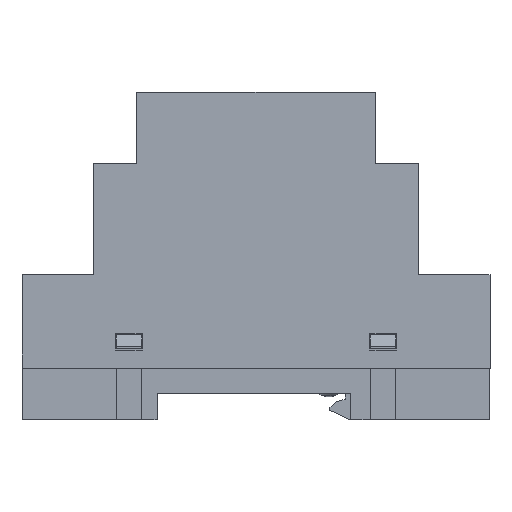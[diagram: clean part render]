
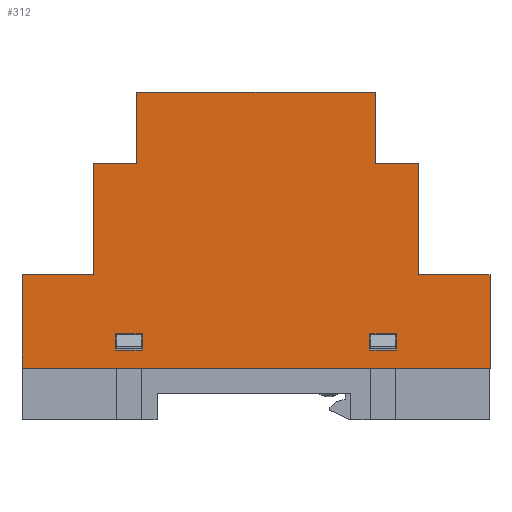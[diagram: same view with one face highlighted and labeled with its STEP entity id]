
A CAD part, front view. The second image highlights one B-rep face of the part: STEP entity #312.
In plain terms, the highlighted planar face has unit normal (0, -1, 0).
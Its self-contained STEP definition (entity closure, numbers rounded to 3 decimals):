
#312=ADVANCED_FACE('',(#1314,#1316,#1318),#1320,.F.);
#1314=FACE_BOUND('',#1315,.T.);
#1315=EDGE_LOOP('',(#4650,#4651,#4652,#4653,#4654,#4655,#4656,#4657,#4658,#4659,
#4660,#4661));
#1316=FACE_BOUND('',#1317,.T.);
#1317=EDGE_LOOP('',(#4662,#4663,#4664,#4665));
#1318=FACE_BOUND('',#1319,.T.);
#1319=EDGE_LOOP('',(#4666,#4667,#4668,#4669));
#1320=PLANE('',#1321);
#1321=AXIS2_PLACEMENT_3D('',#1322,#1323,#1324);
#1322=CARTESIAN_POINT('',(0.,-17.5,0.));
#1323=DIRECTION('',(0.,1.,0.));
#1324=DIRECTION('',(-1.,0.,0.));
#4650=ORIENTED_EDGE('',*,*,#7037,.T.);
#4651=ORIENTED_EDGE('',*,*,#7160,.F.);
#4652=ORIENTED_EDGE('',*,*,#7161,.F.);
#4653=ORIENTED_EDGE('',*,*,#7162,.F.);
#4654=ORIENTED_EDGE('',*,*,#7163,.F.);
#4655=ORIENTED_EDGE('',*,*,#7140,.F.);
#4656=ORIENTED_EDGE('',*,*,#7013,.T.);
#4657=ORIENTED_EDGE('',*,*,#7159,.F.);
#4658=ORIENTED_EDGE('',*,*,#7164,.F.);
#4659=ORIENTED_EDGE('',*,*,#7165,.F.);
#4660=ORIENTED_EDGE('',*,*,#7166,.F.);
#4661=ORIENTED_EDGE('',*,*,#7167,.F.);
#4662=ORIENTED_EDGE('',*,*,#7168,.T.);
#4663=ORIENTED_EDGE('',*,*,#7169,.T.);
#4664=ORIENTED_EDGE('',*,*,#7170,.T.);
#4665=ORIENTED_EDGE('',*,*,#7171,.T.);
#4666=ORIENTED_EDGE('',*,*,#7172,.T.);
#4667=ORIENTED_EDGE('',*,*,#7173,.T.);
#4668=ORIENTED_EDGE('',*,*,#7174,.T.);
#4669=ORIENTED_EDGE('',*,*,#7175,.T.);
#7013=EDGE_CURVE('',#8476,#8481,#8483,.F.);
#7037=EDGE_CURVE('',#8524,#8522,#8525,.F.);
#7140=EDGE_CURVE('',#8476,#8680,#8684,.T.);
#7159=EDGE_CURVE('',#8717,#8481,#8719,.T.);
#7160=EDGE_CURVE('',#8720,#8522,#8721,.T.);
#7161=EDGE_CURVE('',#8722,#8720,#8723,.T.);
#7162=EDGE_CURVE('',#8724,#8722,#8725,.T.);
#7163=EDGE_CURVE('',#8680,#8724,#8726,.T.);
#7164=EDGE_CURVE('',#8727,#8717,#8728,.T.);
#7165=EDGE_CURVE('',#8729,#8727,#8730,.T.);
#7166=EDGE_CURVE('',#8731,#8729,#8732,.T.);
#7167=EDGE_CURVE('',#8524,#8731,#8733,.T.);
#7168=EDGE_CURVE('',#8734,#8735,#8736,.T.);
#7169=EDGE_CURVE('',#8735,#8737,#8738,.T.);
#7170=EDGE_CURVE('',#8737,#8739,#8740,.T.);
#7171=EDGE_CURVE('',#8739,#8734,#8741,.T.);
#7172=EDGE_CURVE('',#8742,#8743,#8744,.T.);
#7173=EDGE_CURVE('',#8743,#8745,#8746,.T.);
#7174=EDGE_CURVE('',#8745,#8747,#8748,.T.);
#7175=EDGE_CURVE('',#8747,#8742,#8749,.T.);
#8476=VERTEX_POINT('',#11010);
#8481=VERTEX_POINT('',#11019);
#8483=LINE('',#11023,#11024);
#8522=VERTEX_POINT('',#11114);
#8524=VERTEX_POINT('',#11118);
#8525=LINE('',#11119,#11120);
#8680=VERTEX_POINT('',#11482);
#8684=LINE('',#11490,#11491);
#8717=VERTEX_POINT('',#11559);
#8719=LINE('',#11563,#11564);
#8720=VERTEX_POINT('',#11566);
#8721=LINE('',#11567,#11568);
#8722=VERTEX_POINT('',#11570);
#8723=LINE('',#11571,#11572);
#8724=VERTEX_POINT('',#11574);
#8725=LINE('',#11575,#11576);
#8726=LINE('',#11578,#11579);
#8727=VERTEX_POINT('',#11581);
#8728=LINE('',#11582,#11583);
#8729=VERTEX_POINT('',#11585);
#8730=LINE('',#11586,#11587);
#8731=VERTEX_POINT('',#11589);
#8732=LINE('',#11590,#11591);
#8733=LINE('',#11593,#11594);
#8734=VERTEX_POINT('',#11596);
#8735=VERTEX_POINT('',#11597);
#8736=LINE('',#11598,#11599);
#8737=VERTEX_POINT('',#11601);
#8738=LINE('',#11602,#11603);
#8739=VERTEX_POINT('',#11605);
#8740=LINE('',#11606,#11607);
#8741=LINE('',#11609,#11610);
#8742=VERTEX_POINT('',#11612);
#8743=VERTEX_POINT('',#11613);
#8744=LINE('',#11614,#11615);
#8745=VERTEX_POINT('',#11617);
#8746=LINE('',#11618,#11619);
#8747=VERTEX_POINT('',#11621);
#8748=LINE('',#11622,#11623);
#8749=LINE('',#11625,#11626);
#11010=CARTESIAN_POINT('',(22.5,-17.5,52.1));
#11019=CARTESIAN_POINT('',(-22.5,-17.5,52.1));
#11023=CARTESIAN_POINT('',(-22.5,-17.5,52.1));
#11024=VECTOR('',#11025,1.);
#11025=DIRECTION('',(1.,0.,0.));
#11114=CARTESIAN_POINT('',(44.175,-17.5,0.));
#11118=CARTESIAN_POINT('',(-44.175,-17.5,0.));
#11119=CARTESIAN_POINT('',(44.175,-17.5,0.));
#11120=VECTOR('',#11121,1.);
#11121=DIRECTION('',(-1.,0.,0.));
#11482=CARTESIAN_POINT('',(22.5,-17.5,38.6));
#11490=CARTESIAN_POINT('',(22.5,-17.5,52.1));
#11491=VECTOR('',#11492,1.);
#11492=DIRECTION('',(0.,0.,-1.));
#11559=CARTESIAN_POINT('',(-22.5,-17.5,38.6));
#11563=CARTESIAN_POINT('',(-22.5,-17.5,38.6));
#11564=VECTOR('',#11565,1.);
#11565=DIRECTION('',(0.,0.,1.));
#11566=CARTESIAN_POINT('',(44.175,-17.5,17.6));
#11567=CARTESIAN_POINT('',(44.175,-17.5,17.6));
#11568=VECTOR('',#11569,1.);
#11569=DIRECTION('',(0.,0.,-1.));
#11570=CARTESIAN_POINT('',(30.7,-17.5,17.6));
#11571=CARTESIAN_POINT('',(30.7,-17.5,17.6));
#11572=VECTOR('',#11573,1.);
#11573=DIRECTION('',(1.,0.,0.));
#11574=CARTESIAN_POINT('',(30.7,-17.5,38.6));
#11575=CARTESIAN_POINT('',(30.7,-17.5,38.6));
#11576=VECTOR('',#11577,1.);
#11577=DIRECTION('',(0.,0.,-1.));
#11578=CARTESIAN_POINT('',(22.5,-17.5,38.6));
#11579=VECTOR('',#11580,1.);
#11580=DIRECTION('',(1.,0.,0.));
#11581=CARTESIAN_POINT('',(-30.7,-17.5,38.6));
#11582=CARTESIAN_POINT('',(-30.7,-17.5,38.6));
#11583=VECTOR('',#11584,1.);
#11584=DIRECTION('',(1.,0.,0.));
#11585=CARTESIAN_POINT('',(-30.7,-17.5,17.6));
#11586=CARTESIAN_POINT('',(-30.7,-17.5,17.6));
#11587=VECTOR('',#11588,1.);
#11588=DIRECTION('',(0.,0.,1.));
#11589=CARTESIAN_POINT('',(-44.175,-17.5,17.6));
#11590=CARTESIAN_POINT('',(-44.175,-17.5,17.6));
#11591=VECTOR('',#11592,1.);
#11592=DIRECTION('',(1.,0.,0.));
#11593=CARTESIAN_POINT('',(-44.175,-17.5,0.));
#11594=VECTOR('',#11595,1.);
#11595=DIRECTION('',(0.,0.,1.));
#11596=CARTESIAN_POINT('',(21.5,-17.5,6.5));
#11597=CARTESIAN_POINT('',(26.5,-17.5,6.5));
#11598=CARTESIAN_POINT('',(21.5,-17.5,6.5));
#11599=VECTOR('',#11600,1.);
#11600=DIRECTION('',(1.,0.,0.));
#11601=CARTESIAN_POINT('',(26.5,-17.5,3.4));
#11602=CARTESIAN_POINT('',(26.5,-17.5,6.5));
#11603=VECTOR('',#11604,1.);
#11604=DIRECTION('',(0.,0.,-1.));
#11605=CARTESIAN_POINT('',(21.5,-17.5,3.4));
#11606=CARTESIAN_POINT('',(26.5,-17.5,3.4));
#11607=VECTOR('',#11608,1.);
#11608=DIRECTION('',(-1.,0.,0.));
#11609=CARTESIAN_POINT('',(21.5,-17.5,3.4));
#11610=VECTOR('',#11611,1.);
#11611=DIRECTION('',(0.,0.,1.));
#11612=CARTESIAN_POINT('',(-26.5,-17.5,6.5));
#11613=CARTESIAN_POINT('',(-21.5,-17.5,6.5));
#11614=CARTESIAN_POINT('',(-26.5,-17.5,6.5));
#11615=VECTOR('',#11616,1.);
#11616=DIRECTION('',(1.,0.,0.));
#11617=CARTESIAN_POINT('',(-21.5,-17.5,3.4));
#11618=CARTESIAN_POINT('',(-21.5,-17.5,6.5));
#11619=VECTOR('',#11620,1.);
#11620=DIRECTION('',(0.,0.,-1.));
#11621=CARTESIAN_POINT('',(-26.5,-17.5,3.4));
#11622=CARTESIAN_POINT('',(-21.5,-17.5,3.4));
#11623=VECTOR('',#11624,1.);
#11624=DIRECTION('',(-1.,0.,0.));
#11625=CARTESIAN_POINT('',(-26.5,-17.5,3.4));
#11626=VECTOR('',#11627,1.);
#11627=DIRECTION('',(0.,0.,1.));
